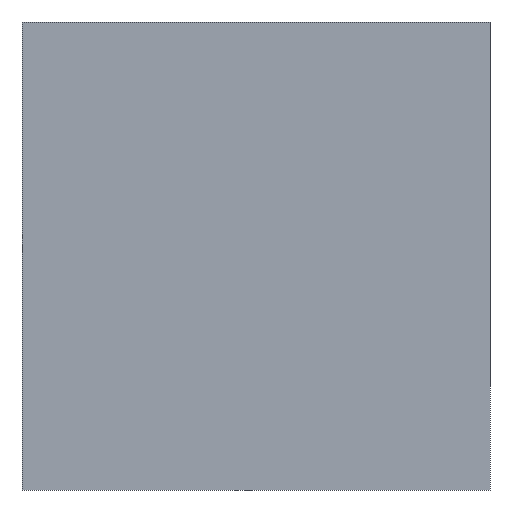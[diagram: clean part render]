
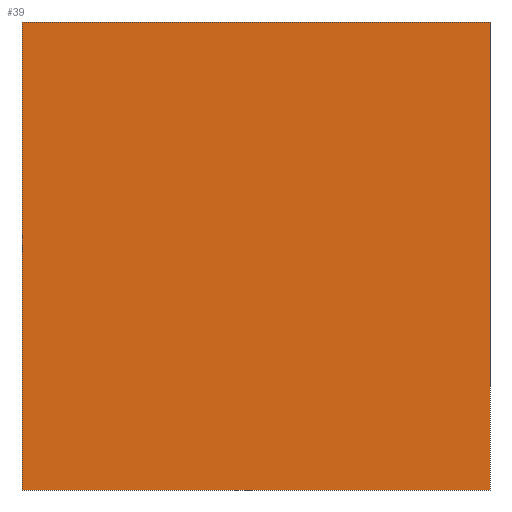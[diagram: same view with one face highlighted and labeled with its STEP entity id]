
A CAD part, front view. The second image highlights one B-rep face of the part: STEP entity #39.
In plain terms, the highlighted planar face has unit normal (0, -1, 0).
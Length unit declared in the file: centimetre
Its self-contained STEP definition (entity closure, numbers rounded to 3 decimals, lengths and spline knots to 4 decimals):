
#6 = DIRECTION ( 'NONE',  ( 0., 0., -1. ) ) ;
#32 = VECTOR ( 'NONE', #6, 100. ) ;
#38 = CARTESIAN_POINT ( 'NONE',  ( 1000., 0., 1000. ) ) ;
#39 = ADVANCED_FACE ( 'NONE', ( #268 ), #308, .F. ) ;
#51 = CARTESIAN_POINT ( 'NONE',  ( 1000., 0., 1000. ) ) ;
#72 = VERTEX_POINT ( 'NONE', #38 ) ;
#79 = CARTESIAN_POINT ( 'NONE',  ( 0., 0., 1000. ) ) ;
#89 = EDGE_CURVE ( 'NONE', #354, #429, #116, .T. ) ;
#102 = EDGE_CURVE ( 'NONE', #429, #215, #483, .T. ) ;
#108 = CARTESIAN_POINT ( 'NONE',  ( 0., 0., 1000. ) ) ;
#116 = LINE ( 'NONE', #79, #131 ) ;
#128 = AXIS2_PLACEMENT_3D ( 'NONE', #108, #393, #271 ) ;
#131 = VECTOR ( 'NONE', #200, 100. ) ;
#200 = DIRECTION ( 'NONE',  ( 0., 0., -1. ) ) ;
#215 = VERTEX_POINT ( 'NONE', #270 ) ;
#268 = FACE_OUTER_BOUND ( 'NONE', #486, .T. ) ;
#270 = CARTESIAN_POINT ( 'NONE',  ( 1000., 0., 0. ) ) ;
#271 = DIRECTION ( 'NONE',  ( 0., 0., 1. ) ) ;
#285 = CARTESIAN_POINT ( 'NONE',  ( 0., 0., 0. ) ) ;
#308 = PLANE ( 'NONE',  #128 ) ;
#319 = LINE ( 'NONE', #51, #32 ) ;
#325 = LINE ( 'NONE', #482, #371 ) ;
#354 = VERTEX_POINT ( 'NONE', #413 ) ;
#367 = DIRECTION ( 'NONE',  ( 1., 0., 0. ) ) ;
#371 = VECTOR ( 'NONE', #367, 100. ) ;
#384 = ORIENTED_EDGE ( 'NONE', *, *, #488, .F. ) ;
#393 = DIRECTION ( 'NONE',  ( 0., 1., 0. ) ) ;
#413 = CARTESIAN_POINT ( 'NONE',  ( 0., 0., 1000. ) ) ;
#416 = VECTOR ( 'NONE', #432, 100. ) ;
#429 = VERTEX_POINT ( 'NONE', #285 ) ;
#432 = DIRECTION ( 'NONE',  ( 1., 0., 0. ) ) ;
#444 = ORIENTED_EDGE ( 'NONE', *, *, #89, .T. ) ;
#448 = EDGE_CURVE ( 'NONE', #72, #215, #319, .T. ) ;
#450 = ORIENTED_EDGE ( 'NONE', *, *, #102, .T. ) ;
#476 = CARTESIAN_POINT ( 'NONE',  ( 0., 0., 0. ) ) ;
#480 = ORIENTED_EDGE ( 'NONE', *, *, #448, .F. ) ;
#482 = CARTESIAN_POINT ( 'NONE',  ( 0., 0., 1000. ) ) ;
#483 = LINE ( 'NONE', #476, #416 ) ;
#486 = EDGE_LOOP ( 'NONE', ( #450, #480, #384, #444 ) ) ;
#488 = EDGE_CURVE ( 'NONE', #354, #72, #325, .T. ) ;
